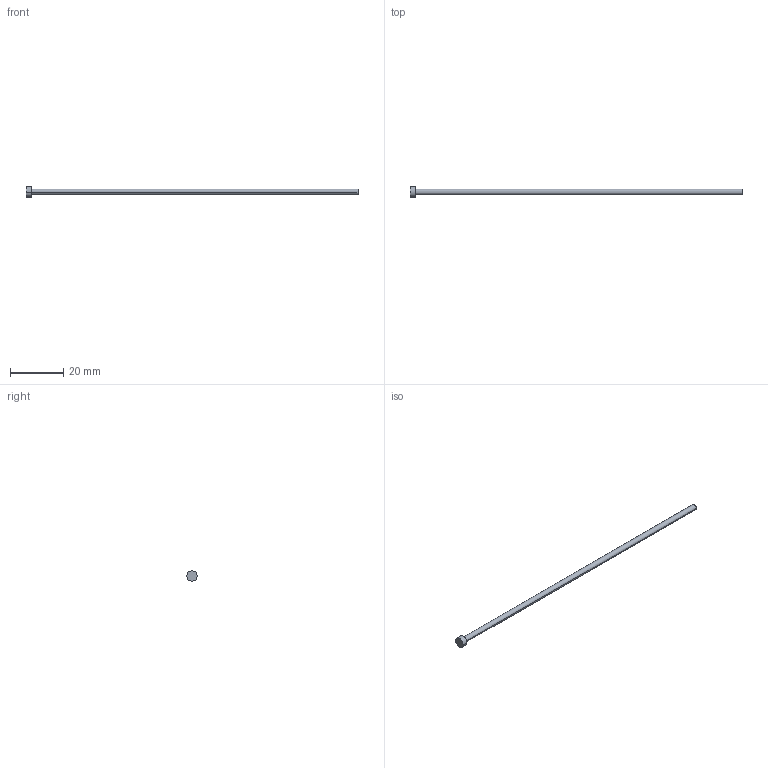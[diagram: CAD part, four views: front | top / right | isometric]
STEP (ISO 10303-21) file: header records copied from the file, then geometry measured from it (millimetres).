
FILE_DESCRIPTION (( 'STEP AP214' ), '1' );
FILE_NAME ('A-2,2x125.STEP', '2020-05-28T16:52:48', ( 'August' ), ( '' ), 'SwSTEP 2.0', 'SolidWorks 2018', '' );
FILE_SCHEMA (( 'AUTOMOTIVE_DESIGN' ));
Length unit declared in the file: millimetre
Products named in the file (1): A-2,2x125
Bounding box: 125 x 4 x 4 mm (x, y, z)
Volume: 492.8 mm3; surface area: 899.8 mm2
Topology: 1 solids, 1 shells, 9 faces, 16 edges, 10 vertices
Faces by surface type: cylinder 4, plane 3, torus 2
Entity records: 260 total; most frequent: DIRECTION 48, CARTESIAN_POINT 36, ORIENTED_EDGE 32, AXIS2_PLACEMENT_3D 22, EDGE_CURVE 16, CIRCLE 12, EDGE_LOOP 10, VERTEX_POINT 10
